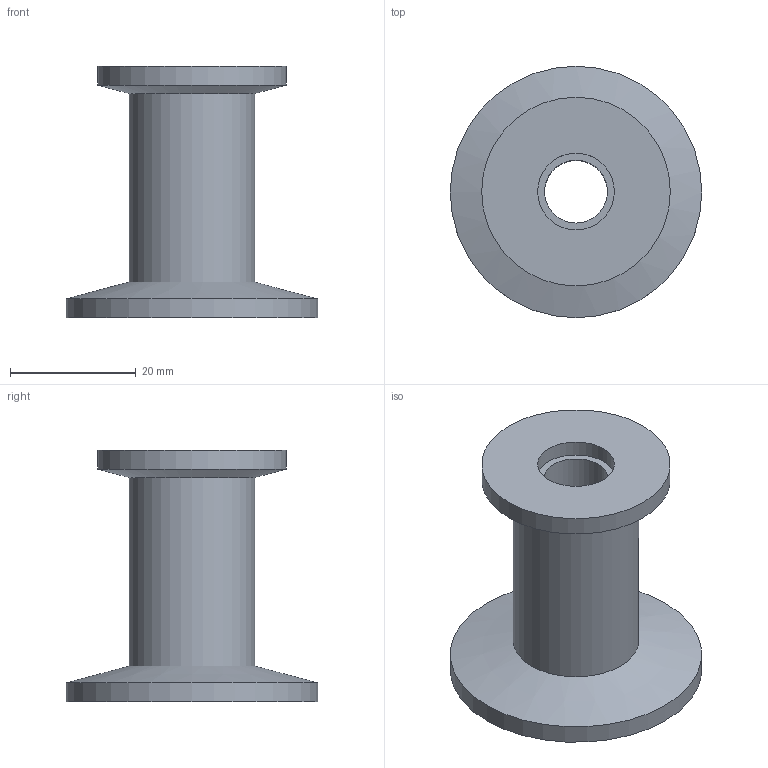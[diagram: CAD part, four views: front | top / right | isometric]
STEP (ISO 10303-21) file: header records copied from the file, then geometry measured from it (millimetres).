
FILE_DESCRIPTION( ( 'Unknown' ), '1' );
FILE_NAME( 'X:/Daten ( aktueller Bestand )/Projekte und Zeichnungen/Solid Edge/1 Kleinflanschverzweigungen/VA/Sonderlänge 40mm/1161-4.stp', 'Unknown', ( 'Unknown' ), ( 'Unknown' ), 'XStep 1.0', 'Unknown', ' ' );
FILE_SCHEMA( ( 'automotive_design' ) );
Length unit declared in the file: millimetre
Products named in the file (1): 1
Bounding box: 40 x 40 x 40 mm (x, y, z)
Volume: 14116.5 mm3; surface area: 7366.6 mm2
Topology: 1 solids, 1 shells, 14 faces, 23 edges, 14 vertices
Faces by surface type: cylinder 7, plane 5, cone 2
Full cylindrical faces by diameter (mm): 10 x1, 12.2 x1, 19.7 x1, 20 x1, 26.2 x1, 30 x1, 40 x1
Entity records: 416 total; most frequent: DIRECTION 58, CARTESIAN_POINT 43, AXIS2_PLACEMENT_3D 29, EDGE_LOOP 28, ORIENTED_EDGE 28, FACE_OUTER_BOUND 21, STYLED_ITEM 14, PRESENTATION_STYLE_ASSIGNMENT 14
